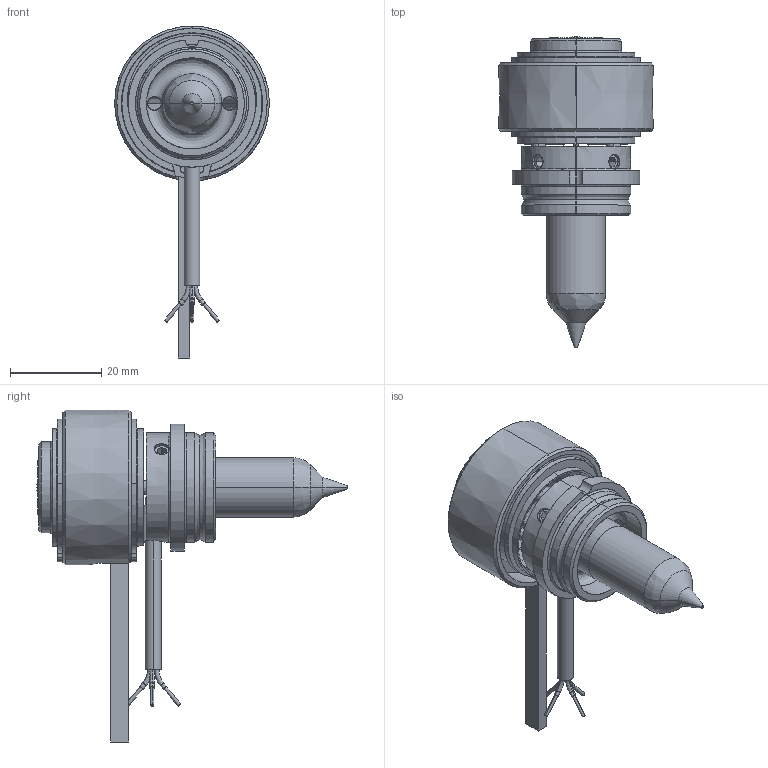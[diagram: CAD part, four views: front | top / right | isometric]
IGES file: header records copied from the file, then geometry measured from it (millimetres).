
Start section: SolidWorks IGES file using analytic representation for surfaces
Global section: file name: C:\Documents and Settings\ws-20\Desktop\TEM\UGGS2510-M-0 [Øf-0.68].IGS; native system: SolidWorks 2012; preprocessor: SolidWorks 2012; author: ws-20; date: 120516.092557; units: millimetre
Bounding box: 34 x 68.3 x 72.9 mm (x, y, z)
Surface area: 14468 mm2 (no closed solid volume)
Topology: 0 solids, 0 shells, 205 faces, 2891 edges, 2885 vertices
Faces by surface type: revolution 121, bspline 84
